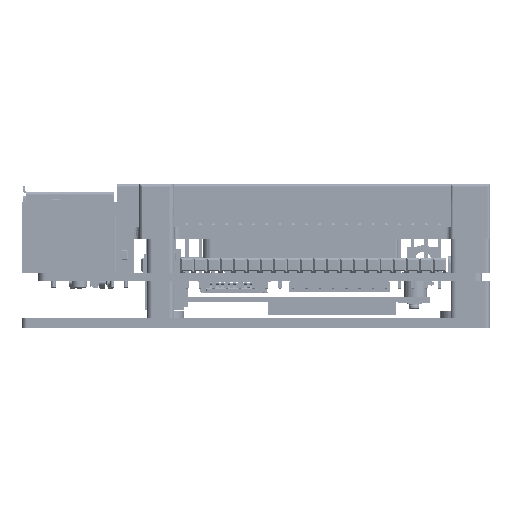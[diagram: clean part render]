
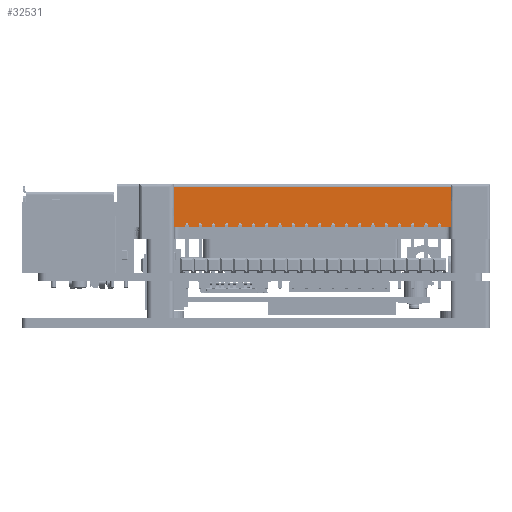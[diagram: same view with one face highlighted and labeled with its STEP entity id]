
A CAD part, front view. The second image highlights one B-rep face of the part: STEP entity #32531.
In plain terms, the highlighted planar face has unit normal (0, -1, 0).
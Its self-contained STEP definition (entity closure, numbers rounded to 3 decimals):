
#4461 = ORIENTED_EDGE ( 'NONE', *, *, #285825, .F. ) ;
#32531 = ADVANCED_FACE ( 'NONE', ( #431011 ), #98700, .F. ) ;
#51900 = VECTOR ( 'NONE', #375199, 1000. ) ;
#59674 = DIRECTION ( 'NONE',  ( 0., 0., 1. ) ) ;
#89634 = VERTEX_POINT ( 'NONE', #195827 ) ;
#98700 = PLANE ( 'NONE',  #219266 ) ;
#119825 = VECTOR ( 'NONE', #241430, 1000. ) ;
#126580 = LINE ( 'NONE', #275640, #119825 ) ;
#169656 = CARTESIAN_POINT ( 'NONE',  ( 35.75, -20.4, 15.4 ) ) ;
#190169 = EDGE_CURVE ( 'NONE', #256734, #89634, #221429, .T. ) ;
#191824 = CARTESIAN_POINT ( 'NONE',  ( -31.315, -20.4, 7.725 ) ) ;
#192632 = CARTESIAN_POINT ( 'NONE',  ( -31.315, -20.4, 16. ) ) ;
#195827 = CARTESIAN_POINT ( 'NONE',  ( 35.75, -20.4, 7.725 ) ) ;
#197586 = VECTOR ( 'NONE', #446905, 1000. ) ;
#214679 = DIRECTION ( 'NONE',  ( 1., 0., 0. ) ) ;
#219266 = AXIS2_PLACEMENT_3D ( 'NONE', #403890, #357601, #59674 ) ;
#221429 = LINE ( 'NONE', #370381, #51900 ) ;
#241430 = DIRECTION ( 'NONE',  ( 0., 0., -1. ) ) ;
#252317 = EDGE_CURVE ( 'NONE', #429330, #89634, #126580, .T. ) ;
#253651 = VERTEX_POINT ( 'NONE', #370084 ) ;
#256734 = VERTEX_POINT ( 'NONE', #191824 ) ;
#275640 = CARTESIAN_POINT ( 'NONE',  ( 35.75, -20.4, 16. ) ) ;
#285825 = EDGE_CURVE ( 'NONE', #253651, #429330, #329304, .T. ) ;
#293414 = EDGE_LOOP ( 'NONE', ( #4461, #473868, #466470, #310076 ) ) ;
#310076 = ORIENTED_EDGE ( 'NONE', *, *, #252317, .F. ) ;
#329304 = LINE ( 'NONE', #478476, #388058 ) ;
#330129 = EDGE_CURVE ( 'NONE', #253651, #256734, #456588, .T. ) ;
#357601 = DIRECTION ( 'NONE',  ( 0., 1., 0. ) ) ;
#370084 = CARTESIAN_POINT ( 'NONE',  ( -31.315, -20.4, 15.4 ) ) ;
#370381 = CARTESIAN_POINT ( 'NONE',  ( -35.55, -20.4, 7.725 ) ) ;
#375199 = DIRECTION ( 'NONE',  ( 1., 0., 0. ) ) ;
#388058 = VECTOR ( 'NONE', #214679, 1000. ) ;
#403890 = CARTESIAN_POINT ( 'NONE',  ( -35.55, -20.4, 16. ) ) ;
#429330 = VERTEX_POINT ( 'NONE', #169656 ) ;
#431011 = FACE_OUTER_BOUND ( 'NONE', #293414, .T. ) ;
#446905 = DIRECTION ( 'NONE',  ( 0., 0., -1. ) ) ;
#456588 = LINE ( 'NONE', #192632, #197586 ) ;
#466470 = ORIENTED_EDGE ( 'NONE', *, *, #190169, .T. ) ;
#473868 = ORIENTED_EDGE ( 'NONE', *, *, #330129, .T. ) ;
#478476 = CARTESIAN_POINT ( 'NONE',  ( -35.55, -20.4, 15.4 ) ) ;
